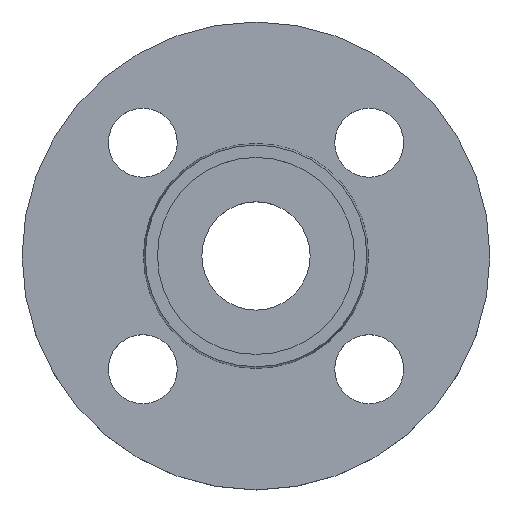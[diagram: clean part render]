
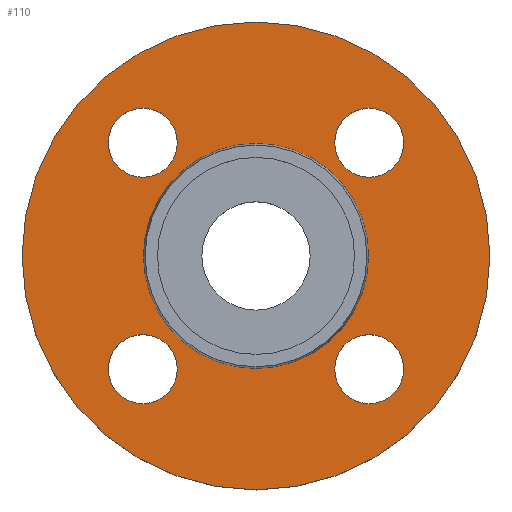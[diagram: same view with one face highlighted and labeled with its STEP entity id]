
A CAD part, top view. The second image highlights one B-rep face of the part: STEP entity #110.
In plain terms, the highlighted planar face has unit normal (0, 0, 1).
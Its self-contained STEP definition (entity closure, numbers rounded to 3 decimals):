
#1 = CIRCLE ( 'NONE', #301, 7. ) ;
#3 = AXIS2_PLACEMENT_3D ( 'NONE', #645, #646, #647 ) ;
#6 = CIRCLE ( 'NONE', #49, 7. ) ;
#9 = CIRCLE ( 'NONE', #198, 7. ) ;
#12 = AXIS2_PLACEMENT_3D ( 'NONE', #510, #511, #512 ) ;
#15 = EDGE_CURVE ( 'NONE', #453, #474, #544, .T. ) ;
#21 = EDGE_CURVE ( 'NONE', #476, #332, #25, .T. ) ;
#24 = AXIS2_PLACEMENT_3D ( 'NONE', #516, #517, #518 ) ;
#25 = CIRCLE ( 'NONE', #24, 7. ) ;
#32 = CIRCLE ( 'NONE', #37, 22.853 ) ;
#36 = AXIS2_PLACEMENT_3D ( 'NONE', #145, #146, #147 ) ;
#37 = AXIS2_PLACEMENT_3D ( 'NONE', #592, #594, #595 ) ;
#40 = AXIS2_PLACEMENT_3D ( 'NONE', #150, #152, #153 ) ;
#41 = CIRCLE ( 'NONE', #40, 47.5 ) ;
#45 = EDGE_CURVE ( 'NONE', #332, #476, #9, .T. ) ;
#47 = AXIS2_PLACEMENT_3D ( 'NONE', #200, #207, #209 ) ;
#49 = AXIS2_PLACEMENT_3D ( 'NONE', #572, #573, #574 ) ;
#107 = CIRCLE ( 'NONE', #36, 22.853 ) ;
#110 = ADVANCED_FACE ( 'NONE', ( #545, #546, #547, #548, #549, #550 ), #551, .T. ) ;
#113 = AXIS2_PLACEMENT_3D ( 'NONE', #662, #664, #665 ) ;
#142 = EDGE_CURVE ( 'NONE', #341, #340, #6, .T. ) ;
#145 = CARTESIAN_POINT ( 'NONE',  ( 0., 0., -2. ) ) ;
#146 = DIRECTION ( 'NONE',  ( 0., 0., -1. ) ) ;
#147 = DIRECTION ( 'NONE',  ( -1., 0., 0. ) ) ;
#150 = CARTESIAN_POINT ( 'NONE',  ( 0., 0., -2. ) ) ;
#152 = DIRECTION ( 'NONE',  ( 0., 0., -1. ) ) ;
#153 = DIRECTION ( 'NONE',  ( -1., 0., 0. ) ) ;
#158 = CIRCLE ( 'NONE', #3, 47.5 ) ;
#160 = AXIS2_PLACEMENT_3D ( 'NONE', #552, #553, #554 ) ;
#173 = CARTESIAN_POINT ( 'NONE',  ( 29.981, 22.981, -2. ) ) ;
#176 = EDGE_CURVE ( 'NONE', #385, #480, #32, .T. ) ;
#180 = CARTESIAN_POINT ( 'NONE',  ( -29.981, -22.981, -2. ) ) ;
#184 = CARTESIAN_POINT ( 'NONE',  ( -15.981, 22.981, -2. ) ) ;
#185 = CARTESIAN_POINT ( 'NONE',  ( -29.981, 22.981, -2. ) ) ;
#192 = CARTESIAN_POINT ( 'NONE',  ( -47.5, 0., -2. ) ) ;
#193 = CARTESIAN_POINT ( 'NONE',  ( 22.853, 0., -2. ) ) ;
#198 = AXIS2_PLACEMENT_3D ( 'NONE', #526, #527, #528 ) ;
#200 = CARTESIAN_POINT ( 'NONE',  ( -22.981, -22.981, -2. ) ) ;
#207 = DIRECTION ( 'NONE',  ( 0., 0., -1. ) ) ;
#209 = DIRECTION ( 'NONE',  ( 1., 0., 0. ) ) ;
#229 = CARTESIAN_POINT ( 'NONE',  ( 29.981, -22.981, -2. ) ) ;
#232 = EDGE_CURVE ( 'NONE', #494, #334, #310, .T. ) ;
#248 = CARTESIAN_POINT ( 'NONE',  ( 15.981, -22.981, -2. ) ) ;
#256 = CARTESIAN_POINT ( 'NONE',  ( 15.981, 22.981, -2. ) ) ;
#259 = CARTESIAN_POINT ( 'NONE',  ( -22.853, 0., -2. ) ) ;
#260 = CARTESIAN_POINT ( 'NONE',  ( 22.981, -22.981, -2. ) ) ;
#261 = DIRECTION ( 'NONE',  ( 0., 0., -1. ) ) ;
#262 = DIRECTION ( 'NONE',  ( 1., 0., 0. ) ) ;
#289 = CARTESIAN_POINT ( 'NONE',  ( 47.5, 0., -2. ) ) ;
#293 = EDGE_CURVE ( 'NONE', #495, #362, #158, .T. ) ;
#295 = CARTESIAN_POINT ( 'NONE',  ( -15.981, -22.981, -2. ) ) ;
#301 = AXIS2_PLACEMENT_3D ( 'NONE', #260, #261, #262 ) ;
#304 = AXIS2_PLACEMENT_3D ( 'NONE', #617, #618, #619 ) ;
#308 = EDGE_CURVE ( 'NONE', #340, #341, #654, .T. ) ;
#310 = CIRCLE ( 'NONE', #304, 7. ) ;
#321 = EDGE_CURVE ( 'NONE', #480, #385, #107, .T. ) ;
#323 = EDGE_CURVE ( 'NONE', #362, #495, #41, .T. ) ;
#326 = EDGE_LOOP ( 'NONE', ( #407, #411 ) ) ;
#331 = EDGE_LOOP ( 'NONE', ( #396, #397 ) ) ;
#332 = VERTEX_POINT ( 'NONE', #173 ) ;
#334 = VERTEX_POINT ( 'NONE', #180 ) ;
#340 = VERTEX_POINT ( 'NONE', #184 ) ;
#341 = VERTEX_POINT ( 'NONE', #185 ) ;
#362 = VERTEX_POINT ( 'NONE', #192 ) ;
#369 = EDGE_LOOP ( 'NONE', ( #412, #404 ) ) ;
#379 = EDGE_LOOP ( 'NONE', ( #403, #406 ) ) ;
#384 = EDGE_LOOP ( 'NONE', ( #400, #402 ) ) ;
#385 = VERTEX_POINT ( 'NONE', #193 ) ;
#396 = ORIENTED_EDGE ( 'NONE', *, *, #15, .T. ) ;
#397 = ORIENTED_EDGE ( 'NONE', *, *, #482, .T. ) ;
#398 = ORIENTED_EDGE ( 'NONE', *, *, #232, .T. ) ;
#399 = ORIENTED_EDGE ( 'NONE', *, *, #405, .T. ) ;
#400 = ORIENTED_EDGE ( 'NONE', *, *, #308, .T. ) ;
#402 = ORIENTED_EDGE ( 'NONE', *, *, #142, .T. ) ;
#403 = ORIENTED_EDGE ( 'NONE', *, *, #45, .T. ) ;
#404 = ORIENTED_EDGE ( 'NONE', *, *, #323, .F. ) ;
#405 = EDGE_CURVE ( 'NONE', #334, #494, #421, .T. ) ;
#406 = ORIENTED_EDGE ( 'NONE', *, *, #21, .T. ) ;
#407 = ORIENTED_EDGE ( 'NONE', *, *, #321, .T. ) ;
#411 = ORIENTED_EDGE ( 'NONE', *, *, #176, .T. ) ;
#412 = ORIENTED_EDGE ( 'NONE', *, *, #293, .F. ) ;
#421 = CIRCLE ( 'NONE', #47, 7. ) ;
#433 = EDGE_LOOP ( 'NONE', ( #398, #399 ) ) ;
#453 = VERTEX_POINT ( 'NONE', #229 ) ;
#474 = VERTEX_POINT ( 'NONE', #248 ) ;
#476 = VERTEX_POINT ( 'NONE', #256 ) ;
#480 = VERTEX_POINT ( 'NONE', #259 ) ;
#482 = EDGE_CURVE ( 'NONE', #474, #453, #1, .T. ) ;
#494 = VERTEX_POINT ( 'NONE', #295 ) ;
#495 = VERTEX_POINT ( 'NONE', #289 ) ;
#510 = CARTESIAN_POINT ( 'NONE',  ( 22.981, -22.981, -2. ) ) ;
#511 = DIRECTION ( 'NONE',  ( 0., 0., -1. ) ) ;
#512 = DIRECTION ( 'NONE',  ( 1., 0., 0. ) ) ;
#516 = CARTESIAN_POINT ( 'NONE',  ( 22.981, 22.981, -2. ) ) ;
#517 = DIRECTION ( 'NONE',  ( 0., 0., -1. ) ) ;
#518 = DIRECTION ( 'NONE',  ( 1., 0., 0. ) ) ;
#526 = CARTESIAN_POINT ( 'NONE',  ( 22.981, 22.981, -2. ) ) ;
#527 = DIRECTION ( 'NONE',  ( 0., 0., -1. ) ) ;
#528 = DIRECTION ( 'NONE',  ( 1., 0., 0. ) ) ;
#544 = CIRCLE ( 'NONE', #12, 7. ) ;
#545 = FACE_BOUND ( 'NONE', #331, .T. ) ;
#546 = FACE_BOUND ( 'NONE', #433, .T. ) ;
#547 = FACE_BOUND ( 'NONE', #384, .T. ) ;
#548 = FACE_BOUND ( 'NONE', #379, .T. ) ;
#549 = FACE_BOUND ( 'NONE', #326, .T. ) ;
#550 = FACE_OUTER_BOUND ( 'NONE', #369, .T. ) ;
#551 = PLANE ( 'NONE',  #160 ) ;
#552 = CARTESIAN_POINT ( 'NONE',  ( 22.853, 0., -2. ) ) ;
#553 = DIRECTION ( 'NONE',  ( 0., 0., 1. ) ) ;
#554 = DIRECTION ( 'NONE',  ( 1., 0., 0. ) ) ;
#572 = CARTESIAN_POINT ( 'NONE',  ( -22.981, 22.981, -2. ) ) ;
#573 = DIRECTION ( 'NONE',  ( 0., 0., -1. ) ) ;
#574 = DIRECTION ( 'NONE',  ( 1., 0., 0. ) ) ;
#592 = CARTESIAN_POINT ( 'NONE',  ( 0., 0., -2. ) ) ;
#594 = DIRECTION ( 'NONE',  ( 0., 0., -1. ) ) ;
#595 = DIRECTION ( 'NONE',  ( -1., 0., 0. ) ) ;
#617 = CARTESIAN_POINT ( 'NONE',  ( -22.981, -22.981, -2. ) ) ;
#618 = DIRECTION ( 'NONE',  ( 0., 0., -1. ) ) ;
#619 = DIRECTION ( 'NONE',  ( 1., 0., 0. ) ) ;
#645 = CARTESIAN_POINT ( 'NONE',  ( 0., 0., -2. ) ) ;
#646 = DIRECTION ( 'NONE',  ( 0., 0., -1. ) ) ;
#647 = DIRECTION ( 'NONE',  ( -1., 0., 0. ) ) ;
#654 = CIRCLE ( 'NONE', #113, 7. ) ;
#662 = CARTESIAN_POINT ( 'NONE',  ( -22.981, 22.981, -2. ) ) ;
#664 = DIRECTION ( 'NONE',  ( 0., 0., -1. ) ) ;
#665 = DIRECTION ( 'NONE',  ( 1., 0., 0. ) ) ;
